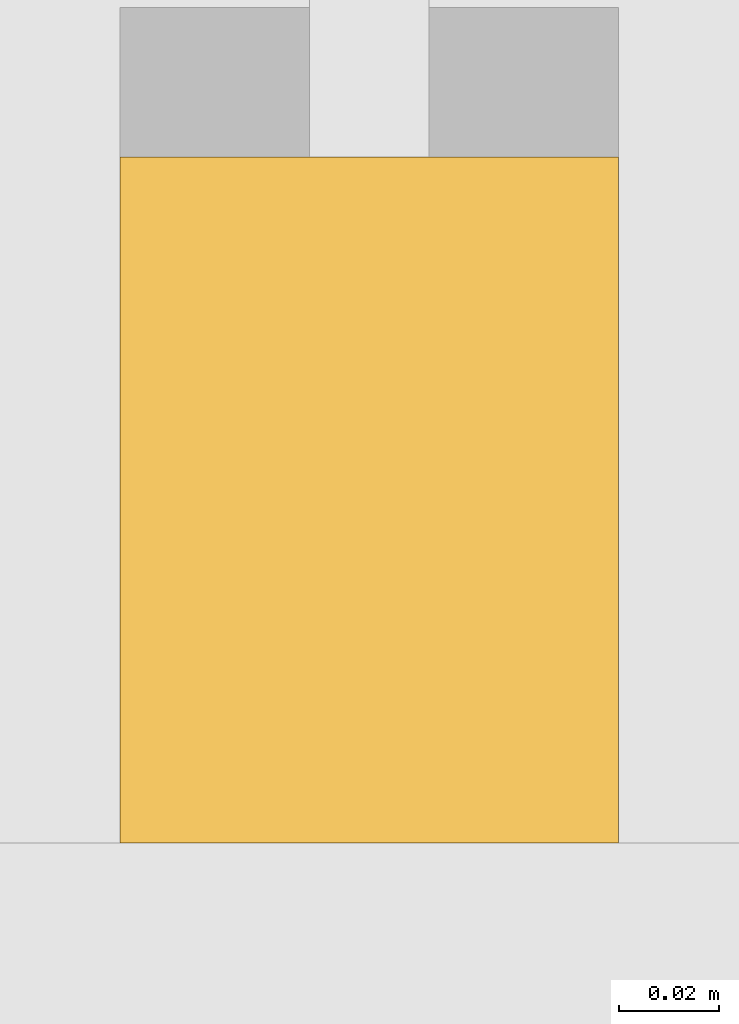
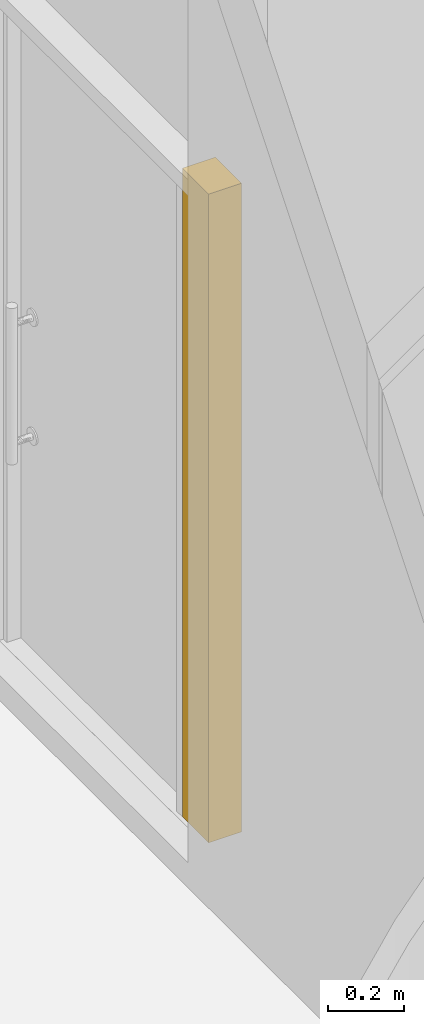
# One storey, part 75 of 100: 1 curtain wall, 1 opening, 1 element without a shape of its own.
"""IFC2X3 building model written with IfcOpenShell, lengths in millimetres."""

from ifc_helpers import new_model, entity, si_unit, converted_unit, derived_unit, direction, frame, frame_2d, origin, place, context, subcontext, project, spatial, rectangle, extrude, material, layer, layer_set, layer_usage, type_object, element, aggregate, save


model = new_model("IFC2X3")

# Units and contexts
model_context = context("Model", 3, precision=0.01, world=origin(), true_north=direction((6.123031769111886e-17, 1.0)))
body_context = subcontext(model_context, "Body", "Model", "MODEL_VIEW")
ifc_project = project(units=[si_unit("LENGTHUNIT", "METRE", prefix="MILLI"), si_unit("AREAUNIT", "SQUARE_METRE"), si_unit("VOLUMEUNIT", "CUBIC_METRE"), converted_unit("PLANEANGLEUNIT", "DEGREE", entity("IfcRatioMeasure", 0.017453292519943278), si_unit("PLANEANGLEUNIT", "RADIAN"), dimensions=[0, 0, 0, 0, 0, 0, 0]), si_unit("MASSUNIT", "GRAM", prefix="KILO"), derived_unit("MASSDENSITYUNIT", [(si_unit("MASSUNIT", "GRAM", prefix="KILO"), 1), (si_unit("LENGTHUNIT", "METRE"), -3)]), derived_unit("MOMENTOFINERTIAUNIT", [(si_unit("LENGTHUNIT", "METRE"), 4)]), si_unit("TIMEUNIT", "SECOND"), si_unit("FREQUENCYUNIT", "HERTZ"), si_unit("THERMODYNAMICTEMPERATUREUNIT", "DEGREE_CELSIUS"), derived_unit("THERMALTRANSMITTANCEUNIT", [(si_unit("MASSUNIT", "GRAM", prefix="KILO"), 1), (si_unit("THERMODYNAMICTEMPERATUREUNIT", "KELVIN"), -1), (si_unit("TIMEUNIT", "SECOND"), -3)]), derived_unit("VOLUMETRICFLOWRATEUNIT", [(si_unit("LENGTHUNIT", "METRE"), 3), (si_unit("TIMEUNIT", "SECOND"), -1)]), derived_unit("MASSFLOWRATEUNIT", [(si_unit("MASSUNIT", "GRAM", prefix="KILO"), 1), (si_unit("TIMEUNIT", "SECOND"), -1)]), derived_unit("ROTATIONALFREQUENCYUNIT", [(si_unit("TIMEUNIT", "SECOND"), -1)]), si_unit("ELECTRICCURRENTUNIT", "AMPERE"), si_unit("ELECTRICVOLTAGEUNIT", "VOLT"), si_unit("POWERUNIT", "WATT"), si_unit("FORCEUNIT", "NEWTON", prefix="KILO"), si_unit("ILLUMINANCEUNIT", "LUX"), si_unit("LUMINOUSFLUXUNIT", "LUMEN"), si_unit("LUMINOUSINTENSITYUNIT", "CANDELA"), derived_unit("USERDEFINED", [(si_unit("MASSUNIT", "GRAM", prefix="KILO"), -1), (si_unit("LENGTHUNIT", "METRE"), -2), (si_unit("TIMEUNIT", "SECOND"), 3), (si_unit("LUMINOUSFLUXUNIT", "LUMEN"), 1)]), derived_unit("SOUNDPOWERUNIT", [(si_unit("MASSUNIT", "GRAM", prefix="KILO"), 1), (si_unit("LENGTHUNIT", "METRE"), 2), (si_unit("TIMEUNIT", "SECOND"), -3)]), derived_unit("SOUNDPRESSUREUNIT", [(si_unit("MASSUNIT", "GRAM", prefix="KILO"), 1), (si_unit("LENGTHUNIT", "METRE"), -1), (si_unit("TIMEUNIT", "SECOND"), -2)]), derived_unit("LINEARVELOCITYUNIT", [(si_unit("LENGTHUNIT", "METRE"), 1), (si_unit("TIMEUNIT", "SECOND"), -1)]), si_unit("PRESSUREUNIT", "PASCAL"), derived_unit("USERDEFINED", [(si_unit("LENGTHUNIT", "METRE"), -2), (si_unit("MASSUNIT", "GRAM", prefix="KILO"), 1), (si_unit("TIMEUNIT", "SECOND"), -2)]), derived_unit("LINEARFORCEUNIT", [(si_unit("MASSUNIT", "GRAM", prefix="KILO"), 1), (si_unit("LENGTHUNIT", "METRE"), 1), (si_unit("TIMEUNIT", "SECOND"), -2), (si_unit("LENGTHUNIT", "METRE"), -1)]), derived_unit("PLANARFORCEUNIT", [(si_unit("MASSUNIT", "GRAM", prefix="KILO"), 1), (si_unit("LENGTHUNIT", "METRE"), 1), (si_unit("TIMEUNIT", "SECOND"), -2), (si_unit("LENGTHUNIT", "METRE"), -2)])], contexts=[model_context])

# Site, building, storey
site_placement = place(None, frame((-14167.972527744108, -657.2125860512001, 0.0)))
site = spatial("IfcSite", under=ifc_project, at=site_placement, Name="Default", CompositionType="ELEMENT")
building_placement = place(site_placement, origin())
building = spatial("IfcBuilding", under=site, at=building_placement, Name="Sample Building", CompositionType="ELEMENT")
storey_placement = place(building_placement, origin())
storey = spatial("IfcBuildingStorey", under=building, at=storey_placement, Name="지상 1층", CompositionType="ELEMENT", Elevation=0.0)

# Curtain walls, opening
curtain_wall_type_1 = type_object("IfcCurtainWallType", Name="커튼월:CW112-스테인리스 스틸 커튼월", PredefinedType="NOTDEFINED")
curtain_wall_1_placement = place(storey_placement, origin())
curtain_wall_1 = element("IfcCurtainWall", 1, at=curtain_wall_1_placement, inside=storey, type_object=curtain_wall_type_1, Name="커튼월:CW112-스테인리스 스틸 커튼월", ObjectType="커튼월:CW112-스테인리스 스틸 커튼월")
ifc_material = material(Name="KBIMS-콘크리트")
ifc_layer = layer(ifc_material, 100.0)
ifc_layer_set = layer_set([ifc_layer], Name="커튼월:CW112-스테인리스 스틸 커튼월")
ifc_layer_usage = layer_usage(ifc_layer_set, "AXIS2", "NEGATIVE", 50.0)
curtain_wall_type_2 = type_object("IfcCurtainWallType", Name="기본 벽:WA111-철근콘크리트구조 벽 100mm", PredefinedType="NOTDEFINED", material=ifc_layer_set)
curtain_wall_2_placement = place(storey_placement, frame((14129.839654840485, 20544.677624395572, 80.0), z_axis=(0.0, 0.0, 1.0), x_axis=(0.0, -1.0, 0.0)))
curtain_wall_2 = element("IfcCurtainWall", 2, at=curtain_wall_2_placement, type_object=curtain_wall_type_2, material=ifc_layer_usage, Name="기본 벽:WA111-철근콘크리트구조 벽 100mm", ObjectType="기본 벽:WA111-철근콘크리트구조 벽 100mm", context=body_context, shape_type="SweptSolid", body=[
    extrude(rectangle(XDim=137.48273315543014, YDim=100.00000000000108, at=frame_2d((2.1671553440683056e-12, 1.0835776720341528e-12), x_axis=(1.0, 0.0))), frame((68.7413665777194, 0.0, 0.0), z_axis=(0.0, 0.0, 1.0), x_axis=(-1.0, 0.0, 0.0)), (0.0, 0.0, 1.0), 2075.0),
])
opening_placement = place(curtain_wall_2_placement, frame((-950.0, -50.0, -25.0)))
element("IfcOpeningElement", 3, at=opening_placement, cuts=curtain_wall_2, Name="DR111-외여닫이문(철재, 일반, 양개):DR111-외여닫이문(유리, 일반, 양개) 950x2100mm:1", ObjectType="Opening", context=body_context, shape_type="SweptSolid", body=[
    extrude(rectangle(XDim=2099.9999999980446, YDim=949.9999999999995, at=frame_2d((1049.9999999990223, 474.9999999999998), x_axis=(1.0, 0.0))), frame((0.0, 0.0, 0.0), z_axis=(0.0, 1.0, 0.0), x_axis=(0.0, 0.0, 1.0)), (0.0, 0.0, 1.0), 100.0),
])
aggregate(curtain_wall_1, [curtain_wall_2])

save(model, "model.ifc")
